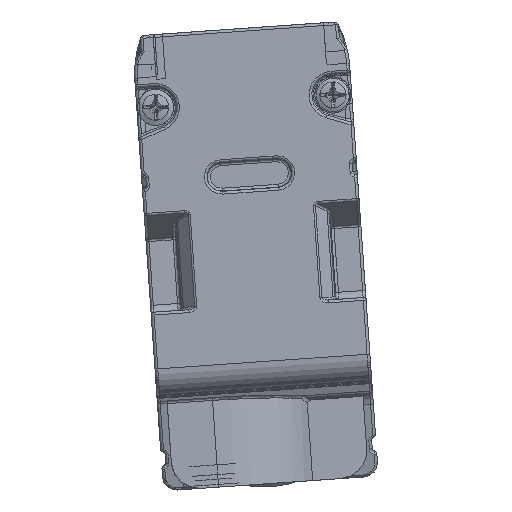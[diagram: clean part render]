
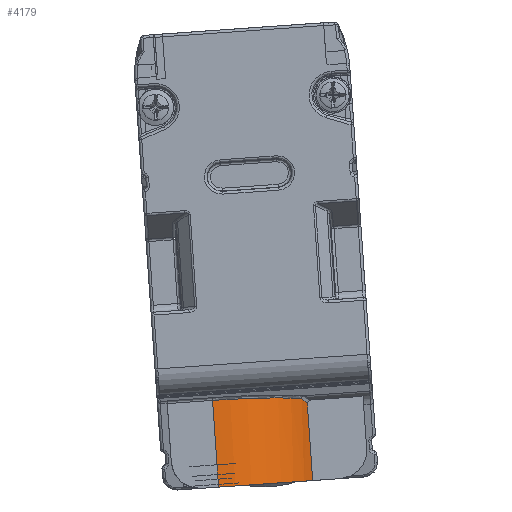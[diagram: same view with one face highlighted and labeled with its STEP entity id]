
A CAD part, front view. The second image highlights one B-rep face of the part: STEP entity #4179.
In plain terms, the highlighted cylindrical face has radius 7.5 mm (diameter 15 mm), a partial arc.
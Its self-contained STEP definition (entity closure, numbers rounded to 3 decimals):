
#277=ELLIPSE('',#23789,7.53,7.5);
#656=B_SPLINE_CURVE_WITH_KNOTS('',3,(#46394,#46395,#46396,#46397,#46398,
#46399,#46400),.UNSPECIFIED.,.F.,.F.,(4,3,4),(0.,0.485,1.),.UNSPECIFIED.);
#1570=CYLINDRICAL_SURFACE('',#23791,7.5);
#3144=CIRCLE('',#23790,7.5);
#4179=ADVANCED_FACE('',(#5431),#1570,.T.);
#5431=FACE_OUTER_BOUND('',#6524,.T.);
#6524=EDGE_LOOP('',(#11842,#11843,#11844,#11845,#11846));
#11842=ORIENTED_EDGE('',*,*,#18001,.T.);
#11843=ORIENTED_EDGE('',*,*,#18002,.T.);
#11844=ORIENTED_EDGE('',*,*,#18003,.T.);
#11845=ORIENTED_EDGE('',*,*,#18004,.T.);
#11846=ORIENTED_EDGE('',*,*,#18005,.F.);
#14564=VERTEX_POINT('',#46392);
#14565=VERTEX_POINT('',#46393);
#14566=VERTEX_POINT('',#46401);
#14567=VERTEX_POINT('',#46403);
#14568=VERTEX_POINT('',#46405);
#18001=EDGE_CURVE('',#14564,#14565,#19707,.T.);
#18002=EDGE_CURVE('',#14565,#14566,#656,.T.);
#18003=EDGE_CURVE('',#14566,#14567,#277,.T.);
#18004=EDGE_CURVE('',#14567,#14568,#19708,.T.);
#18005=EDGE_CURVE('',#14564,#14568,#3144,.T.);
#19707=LINE('',#46391,#21305);
#19708=LINE('',#46404,#21306);
#21305=VECTOR('',#30070,1.);
#21306=VECTOR('',#30073,1.);
#23789=AXIS2_PLACEMENT_3D('',#46402,#30071,#30072);
#23790=AXIS2_PLACEMENT_3D('',#46406,#30074,#30075);
#23791=AXIS2_PLACEMENT_3D('',#46407,#30076,#30077);
#30070=DIRECTION('',(-0.07,0.,0.998));
#30071=DIRECTION('',(0.069,-0.089,-0.994));
#30072=DIRECTION('',(0.006,0.996,-0.089));
#30073=DIRECTION('',(0.07,0.,-0.998));
#30074=DIRECTION('',(0.07,0.,-0.998));
#30075=DIRECTION('',(0.998,0.,0.07));
#30076=DIRECTION('',(0.07,0.,-0.998));
#30077=DIRECTION('',(0.,-1.,0.));
#46391=CARTESIAN_POINT('',(-40.701,-830.597,14.888));
#46392=CARTESIAN_POINT('',(-40.701,-830.597,14.888));
#46393=CARTESIAN_POINT('',(-41.088,-830.597,20.435));
#46394=CARTESIAN_POINT('',(-41.088,-830.597,20.435));
#46395=CARTESIAN_POINT('',(-41.139,-830.686,20.528));
#46396=CARTESIAN_POINT('',(-41.198,-830.793,20.603));
#46397=CARTESIAN_POINT('',(-41.263,-830.905,20.654));
#46398=CARTESIAN_POINT('',(-41.332,-831.024,20.708));
#46399=CARTESIAN_POINT('',(-41.408,-831.152,20.738));
#46400=CARTESIAN_POINT('',(-41.487,-831.278,20.743));
#46401=CARTESIAN_POINT('',(-41.487,-831.278,20.743));
#46402=CARTESIAN_POINT('',(-47.816,-827.318,19.944));
#46403=CARTESIAN_POINT('',(-47.863,-834.818,20.616));
#46404=CARTESIAN_POINT('',(-47.667,-834.818,17.815));
#46405=CARTESIAN_POINT('',(-47.43,-834.818,14.418));
#46406=CARTESIAN_POINT('',(-47.43,-827.318,14.418));
#46407=CARTESIAN_POINT('',(-52.434,-827.318,85.982));
